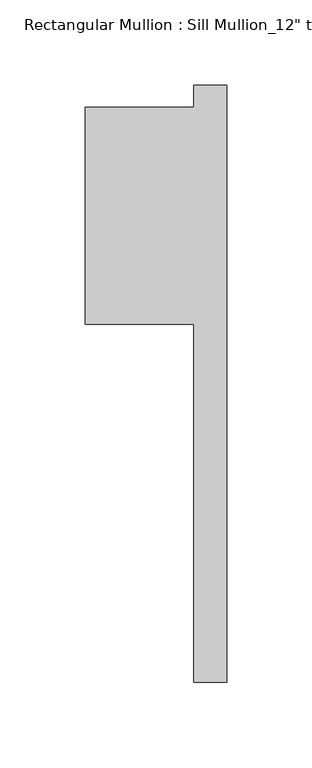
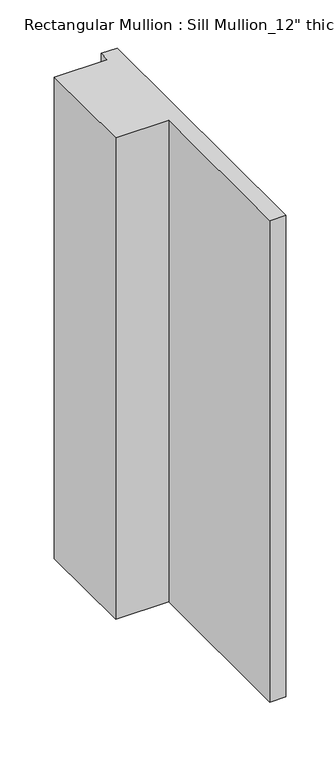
"""IFC4 building model written with IfcOpenShell, lengths in millimetres: member geometry."""

from ifc_helpers import new_model, si_unit, frame, origin, place, context, project, spatial, polyline, outline, extrude, source, transform, mapped, element, save


def member_92d3d142(model_context):
    return source(origin(), model_context, "Body", "SweptSolid", [
        extrude(outline(polyline([(-82.55, -50.8), (-82.55, 76.2), (-19.05, 76.2), (-19.05, 88.9), (0.0, 88.9), (0.0, -260.35), (-19.05, -260.35), (-19.05, -50.8), (-82.55, -50.8)])), frame((0.0, 0.0, -609.6), z_axis=(0.0, 0.0, 1.0), x_axis=(1.0, 0.0, 0.0)), (0.0, 0.0, 1.0), 609.6),
    ])


if __name__ == "__main__":
    model = new_model("IFC4")
    model_context = context("Model", 3, world=origin())
    ifc_project = project(units=[si_unit("LENGTHUNIT", "METRE", prefix="MILLI")], contexts=[model_context])
    site = spatial("IfcSite", under=ifc_project)
    building = spatial("IfcBuilding", under=site)
    placement = place(None, origin())
    member_shape = member_92d3d142(model_context)
    element("IfcMember", 1, ObjectType="Rectangular Mullion : Sill Mullion_12\" thick wall", at=placement, inside=building, context=model_context, shape_type="MappedRepresentation", body=[
        mapped(member_shape, transform((0.0, 0.0, 0.0), x_axis=(1.0, 0.0, 0.0), y_axis=(0.0, 1.0, 0.0), z_axis=(0.0, 0.0, 1.0))),
    ])
    save(model, "model.ifc")
